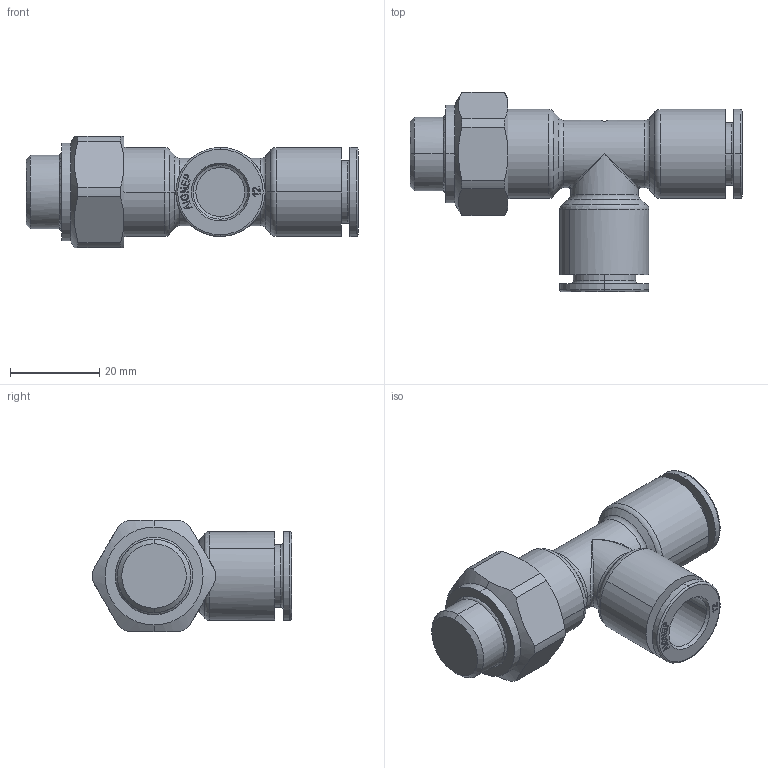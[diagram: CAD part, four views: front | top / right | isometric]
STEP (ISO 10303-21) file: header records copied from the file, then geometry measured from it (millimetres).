
FILE_DESCRIPTION (( 'STEP AP214' ), '1' );
FILE_NAME ('5422700025A.STEP', '2025-07-01T14:48:27', ( '' ), ( '' ), 'SwSTEP 2.0', 'SolidWorks 2020', '' );
FILE_SCHEMA (( 'AUTOMOTIVE_DESIGN' ));
Length unit declared in the file: millimetre
Products named in the file (1): 5422700025A
Bounding box: 74.55 x 44.75 x 25 mm (x, y, z)
Volume: 23175.2 mm3; surface area: 9735 mm2
Topology: 1 solids, 3 shells, 301 faces, 757 edges, 486 vertices
Faces by surface type: plane 159, bspline 54, cylinder 40, cone 26, torus 22
Entity records: 15209 total; most frequent: CARTESIAN_POINT 5081, ORIENTED_EDGE 1506, DIRECTION 1251, EDGE_CURVE 753, VERTEX_POINT 486, LINE 477, VECTOR 477, AXIS2_PLACEMENT_3D 387
